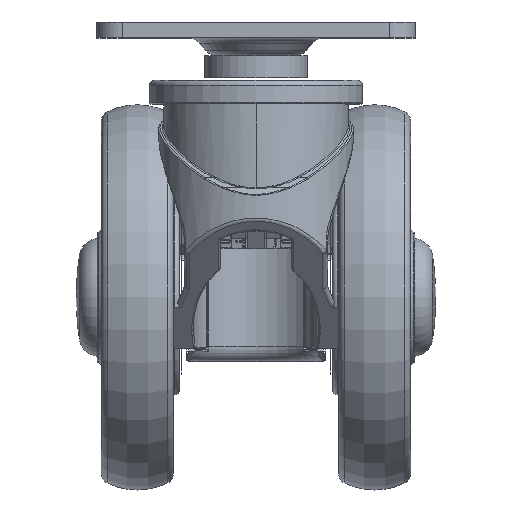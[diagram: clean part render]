
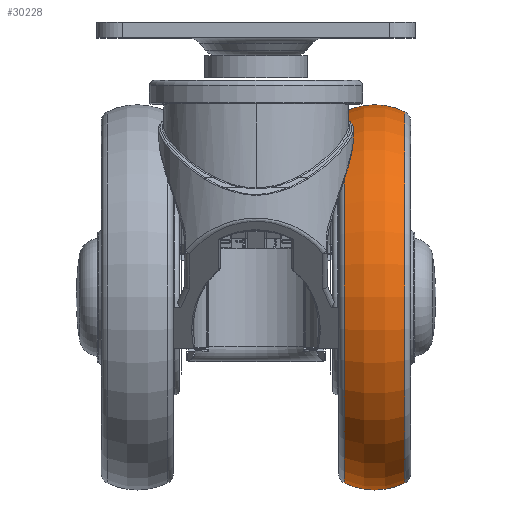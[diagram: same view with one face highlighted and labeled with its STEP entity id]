
A CAD part, top view. The second image highlights one B-rep face of the part: STEP entity #30228.
In plain terms, the highlighted toroidal (fillet/blend) face has major radius 24.25 mm and minor radius 13.25 mm.
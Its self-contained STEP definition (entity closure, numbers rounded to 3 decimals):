
#30078=CARTESIAN_POINT('',(28.989,0.,0.));
#30079=DIRECTION('',(1.,0.,0.));
#30080=DIRECTION('',(0.,1.,0.));
#30081=AXIS2_PLACEMENT_3D('',#30078,#30079,#30080);
#30083=CARTESIAN_POINT('',(17.211,0.,0.));
#30084=DIRECTION('',(1.,0.,0.));
#30085=DIRECTION('',(0.,1.,0.));
#30086=AXIS2_PLACEMENT_3D('',#30083,#30084,#30085);
#30123=CARTESIAN_POINT('',(23.1,24.25,0.));
#30124=DIRECTION('',(0.,0.,-1.));
#30125=DIRECTION('',(-0.444,0.896,0.));
#30126=AXIS2_PLACEMENT_3D('',#30123,#30124,#30125);
#30133=CARTESIAN_POINT('',(23.1,-24.25,0.));
#30134=DIRECTION('',(0.,0.,1.));
#30135=DIRECTION('',(-0.444,-0.896,0.));
#30136=AXIS2_PLACEMENT_3D('',#30133,#30134,#30135);
#30155=CARTESIAN_POINT('',(28.989,36.119,0.));
#30156=CARTESIAN_POINT('',(28.989,-36.119,0.));
#30157=VERTEX_POINT('',#30155);
#30158=VERTEX_POINT('',#30156);
#30159=CARTESIAN_POINT('',(17.211,36.119,
0.));
#30160=CARTESIAN_POINT('',(17.211,-36.119,0.));
#30161=VERTEX_POINT('',#30159);
#30162=VERTEX_POINT('',#30160);
#30214=CARTESIAN_POINT('',(23.1,0.,0.));
#30215=DIRECTION('',(-1.,0.,0.));
#30216=DIRECTION('',(0.,1.,0.));
#30217=AXIS2_PLACEMENT_3D('',#30214,#30215,#30216);
#30218=TOROIDAL_SURFACE('',#30217,24.25,13.25);
#30220=ORIENTED_EDGE('',*,*,#30219,.T.);
#30222=ORIENTED_EDGE('',*,*,#30221,.F.);
#30223=ORIENTED_EDGE('',*,*,#30197,.F.);
#30225=ORIENTED_EDGE('',*,*,#30224,.T.);
#30226=EDGE_LOOP('',(#30220,#30222,#30223,#30225));
#30227=FACE_OUTER_BOUND('',#30226,.F.);
#30082=CIRCLE('',#30081,36.119);
#30087=CIRCLE('',#30086,36.119);
#30127=CIRCLE('',#30126,13.25);
#30137=CIRCLE('',#30136,13.25);
#30197=EDGE_CURVE('',#30161,#30162,#30087,.T.);
#30219=EDGE_CURVE('',#30157,#30158,#30082,.T.);
#30221=EDGE_CURVE('',#30162,#30158,#30137,.T.);
#30224=EDGE_CURVE('',#30161,#30157,#30127,.T.);
#30228=ADVANCED_FACE('',(#30227),#30218,.T.);
